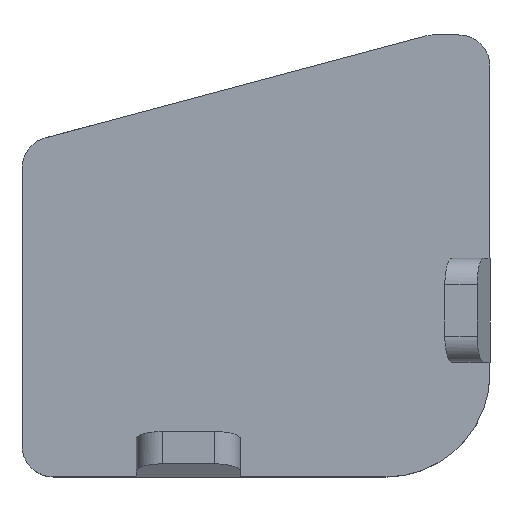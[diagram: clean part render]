
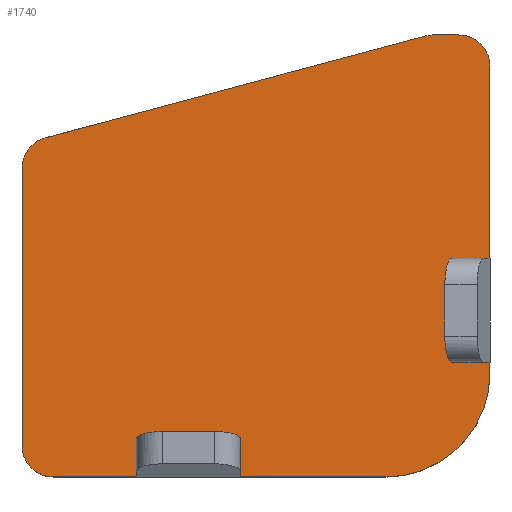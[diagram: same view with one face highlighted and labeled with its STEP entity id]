
A CAD part, top view. The second image highlights one B-rep face of the part: STEP entity #1740.
In plain terms, the highlighted planar face has unit normal (0, 0, 1).
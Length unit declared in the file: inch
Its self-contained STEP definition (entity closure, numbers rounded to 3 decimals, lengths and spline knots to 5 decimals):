
#3 = CARTESIAN_POINT ( 'NONE',  ( 0.15, 1.2, 0.25 ) ) ;
#10 = VECTOR ( 'NONE', #1423, 39.37008 ) ;
#25 = LINE ( 'NONE', #450, #368 ) ;
#31 = ORIENTED_EDGE ( 'NONE', *, *, #583, .T. ) ;
#53 = EDGE_CURVE ( 'NONE', #1333, #577, #1671, .T. ) ;
#60 = FACE_OUTER_BOUND ( 'NONE', #218, .T. ) ;
#100 = CARTESIAN_POINT ( 'NONE',  ( 0.55, 0.15, 0.25 ) ) ;
#103 = CARTESIAN_POINT ( 'NONE',  ( 0., 0., 0.25 ) ) ;
#105 = CARTESIAN_POINT ( 'NONE',  ( 0.5, 0.5, 0.25 ) ) ;
#109 = LINE ( 'NONE', #1492, #1618 ) ;
#123 = EDGE_CURVE ( 'NONE', #653, #1025, #25, .T. ) ;
#137 = CARTESIAN_POINT ( 'NONE',  ( 1.05, 0.15, 0.25 ) ) ;
#141 = DIRECTION ( 'NONE',  ( -1., 0., 0. ) ) ;
#151 = CARTESIAN_POINT ( 'NONE',  ( 1.975, 0.27098, 0.25 ) ) ;
#155 = VERTEX_POINT ( 'NONE', #1110 ) ;
#173 = ORIENTED_EDGE ( 'NONE', *, *, #652, .T. ) ;
#185 = EDGE_CURVE ( 'NONE', #1169, #1060, #675, .T. ) ;
#192 = DIRECTION ( 'NONE',  ( 0., 1., 0. ) ) ;
#218 = EDGE_LOOP ( 'NONE', ( #429, #1091, #1090, #740, #555, #446, #487, #1644, #1733, #1021, #488, #539, #1437, #1481, #31, #1017, #243, #173 ) ) ;
#227 = PLANE ( 'NONE',  #1069 ) ;
#241 = DIRECTION ( 'NONE',  ( 1., 0., 0. ) ) ;
#243 = ORIENTED_EDGE ( 'NONE', *, *, #53, .T. ) ;
#286 = VERTEX_POINT ( 'NONE', #879 ) ;
#293 = CARTESIAN_POINT ( 'NONE',  ( 1.05, 0., 0.25 ) ) ;
#302 = EDGE_CURVE ( 'NONE', #1172, #1041, #877, .T. ) ;
#305 = DIRECTION ( 'NONE',  ( 0., 0., 1. ) ) ;
#326 = CARTESIAN_POINT ( 'NONE',  ( 0.15, 2.25, 0.25 ) ) ;
#343 = CARTESIAN_POINT ( 'NONE',  ( 2.125, 0., 0.25 ) ) ;
#365 = LINE ( 'NONE', #801, #736 ) ;
#368 = VECTOR ( 'NONE', #1252, 39.37008 ) ;
#372 = DIRECTION ( 'NONE',  ( 1., 0., 0. ) ) ;
#399 = DIRECTION ( 'NONE',  ( 0., 0., 1. ) ) ;
#405 = LINE ( 'NONE', #3, #10 ) ;
#429 = ORIENTED_EDGE ( 'NONE', *, *, #786, .T. ) ;
#446 = ORIENTED_EDGE ( 'NONE', *, *, #1173, .F. ) ;
#449 = EDGE_CURVE ( 'NONE', #1570, #925, #365, .T. ) ;
#450 = CARTESIAN_POINT ( 'NONE',  ( 0.55, 0.15, 0.25 ) ) ;
#466 = CARTESIAN_POINT ( 'NONE',  ( 0.15, 1.2, 0.25 ) ) ;
#487 = ORIENTED_EDGE ( 'NONE', *, *, #1839, .F. ) ;
#488 = ORIENTED_EDGE ( 'NONE', *, *, #1305, .T. ) ;
#505 = CARTESIAN_POINT ( 'NONE',  ( 1.48492, 2.25, 0.25 ) ) ;
#523 = CARTESIAN_POINT ( 'NONE',  ( 2.125, 0.27098, 0.25 ) ) ;
#539 = ORIENTED_EDGE ( 'NONE', *, *, #123, .F. ) ;
#555 = ORIENTED_EDGE ( 'NONE', *, *, #302, .T. ) ;
#577 = VERTEX_POINT ( 'NONE', #523 ) ;
#583 = EDGE_CURVE ( 'NONE', #1060, #1465, #109, .T. ) ;
#588 = CARTESIAN_POINT ( 'NONE',  ( 2.125, 0.29073, 0.25 ) ) ;
#589 = LINE ( 'NONE', #588, #1748 ) ;
#591 = CIRCLE ( 'NONE', #640, 0.15 ) ;
#635 = CARTESIAN_POINT ( 'NONE',  ( 1.48492, 2.1, 0.25 ) ) ;
#640 = AXIS2_PLACEMENT_3D ( 'NONE', #1601, #1449, #1717 ) ;
#652 = EDGE_CURVE ( 'NONE', #577, #1650, #812, .T. ) ;
#653 = VERTEX_POINT ( 'NONE', #100 ) ;
#662 = EDGE_CURVE ( 'NONE', #286, #1148, #1812, .T. ) ;
#668 = CARTESIAN_POINT ( 'NONE',  ( 2.125, 0.15, 0.25 ) ) ;
#675 = LINE ( 'NONE', #1128, #1003 ) ;
#697 = DIRECTION ( 'NONE',  ( 0., 0., 1. ) ) ;
#732 = CARTESIAN_POINT ( 'NONE',  ( 0., 2.25, 0.25 ) ) ;
#736 = VECTOR ( 'NONE', #1609, 39.37008 ) ;
#740 = ORIENTED_EDGE ( 'NONE', *, *, #1381, .T. ) ;
#763 = CIRCLE ( 'NONE', #1663, 0.15 ) ;
#784 = VECTOR ( 'NONE', #950, 39.37008 ) ;
#786 = EDGE_CURVE ( 'NONE', #1650, #1556, #589, .T. ) ;
#794 = DIRECTION ( 'NONE',  ( 1., 0., 0. ) ) ;
#801 = CARTESIAN_POINT ( 'NONE',  ( 1.60001, 2.25, 0.25 ) ) ;
#804 = CARTESIAN_POINT ( 'NONE',  ( 1.05, 0.15, 0.25 ) ) ;
#812 = CIRCLE ( 'NONE', #1296, 0.15 ) ;
#827 = DIRECTION ( 'NONE',  ( 1., 0., 0. ) ) ;
#828 = EDGE_CURVE ( 'NONE', #1169, #653, #888, .T. ) ;
#862 = CARTESIAN_POINT ( 'NONE',  ( 0.15, 1.2, 0.25 ) ) ;
#876 = DIRECTION ( 'NONE',  ( -0.259, 0.966, 0. ) ) ;
#877 = LINE ( 'NONE', #732, #1229 ) ;
#879 = CARTESIAN_POINT ( 'NONE',  ( 0., 0.5, 0.25 ) ) ;
#888 = LINE ( 'NONE', #137, #1281 ) ;
#891 = EDGE_CURVE ( 'NONE', #1226, #155, #405, .T. ) ;
#899 = AXIS2_PLACEMENT_3D ( 'NONE', #635, #1604, #794 ) ;
#925 = VERTEX_POINT ( 'NONE', #326 ) ;
#950 = DIRECTION ( 'NONE',  ( 0., -1., 0. ) ) ;
#1000 = DIRECTION ( 'NONE',  ( 0., -1., 0. ) ) ;
#1003 = VECTOR ( 'NONE', #1817, 39.37008 ) ;
#1017 = ORIENTED_EDGE ( 'NONE', *, *, #1236, .T. ) ;
#1021 = ORIENTED_EDGE ( 'NONE', *, *, #662, .T. ) ;
#1025 = VERTEX_POINT ( 'NONE', #1807 ) ;
#1041 = VERTEX_POINT ( 'NONE', #1256 ) ;
#1060 = VERTEX_POINT ( 'NONE', #293 ) ;
#1069 = AXIS2_PLACEMENT_3D ( 'NONE', #103, #399, #1373 ) ;
#1090 = ORIENTED_EDGE ( 'NONE', *, *, #449, .T. ) ;
#1091 = ORIENTED_EDGE ( 'NONE', *, *, #1508, .T. ) ;
#1109 = DIRECTION ( 'NONE',  ( 0., 0., 1. ) ) ;
#1110 = CARTESIAN_POINT ( 'NONE',  ( 0., 1.2, 0.25 ) ) ;
#1128 = CARTESIAN_POINT ( 'NONE',  ( 1.05, 0.15, 0.25 ) ) ;
#1134 = LINE ( 'NONE', #1482, #784 ) ;
#1148 = VERTEX_POINT ( 'NONE', #1360 ) ;
#1168 = CARTESIAN_POINT ( 'NONE',  ( 0.15, 2.1, 0.25 ) ) ;
#1169 = VERTEX_POINT ( 'NONE', #804 ) ;
#1172 = VERTEX_POINT ( 'NONE', #1837 ) ;
#1173 = EDGE_CURVE ( 'NONE', #1502, #1041, #1790, .T. ) ;
#1190 = CARTESIAN_POINT ( 'NONE',  ( 0.15, 1.7, 0.25 ) ) ;
#1201 = DIRECTION ( 'NONE',  ( -1., 0., 0. ) ) ;
#1226 = VERTEX_POINT ( 'NONE', #466 ) ;
#1229 = VECTOR ( 'NONE', #1000, 39.37008 ) ;
#1236 = EDGE_CURVE ( 'NONE', #1465, #1333, #591, .T. ) ;
#1246 = VECTOR ( 'NONE', #372, 39.37008 ) ;
#1252 = DIRECTION ( 'NONE',  ( 0., -1., 0. ) ) ;
#1256 = CARTESIAN_POINT ( 'NONE',  ( 0., 1.7, 0.25 ) ) ;
#1281 = VECTOR ( 'NONE', #141, 39.37008 ) ;
#1296 = AXIS2_PLACEMENT_3D ( 'NONE', #151, #697, #1657 ) ;
#1299 = DIRECTION ( 'NONE',  ( 1., 0., 0. ) ) ;
#1305 = EDGE_CURVE ( 'NONE', #1148, #1025, #1567, .T. ) ;
#1333 = VERTEX_POINT ( 'NONE', #668 ) ;
#1360 = CARTESIAN_POINT ( 'NONE',  ( 0.5, 0., 0.25 ) ) ;
#1373 = DIRECTION ( 'NONE',  ( 1., 0., 0. ) ) ;
#1376 = CARTESIAN_POINT ( 'NONE',  ( 0., 0., 0.25 ) ) ;
#1381 = EDGE_CURVE ( 'NONE', #925, #1172, #763, .T. ) ;
#1392 = VECTOR ( 'NONE', #1819, 39.37008 ) ;
#1423 = DIRECTION ( 'NONE',  ( -1., 0., 0. ) ) ;
#1430 = LINE ( 'NONE', #862, #1392 ) ;
#1437 = ORIENTED_EDGE ( 'NONE', *, *, #828, .F. ) ;
#1449 = DIRECTION ( 'NONE',  ( 0., 0., 1. ) ) ;
#1465 = VERTEX_POINT ( 'NONE', #1587 ) ;
#1481 = ORIENTED_EDGE ( 'NONE', *, *, #185, .T. ) ;
#1482 = CARTESIAN_POINT ( 'NONE',  ( 0., 2.25, 0.25 ) ) ;
#1492 = CARTESIAN_POINT ( 'NONE',  ( 0., 0., 0.25 ) ) ;
#1502 = VERTEX_POINT ( 'NONE', #1190 ) ;
#1508 = EDGE_CURVE ( 'NONE', #1556, #1570, #1684, .T. ) ;
#1556 = VERTEX_POINT ( 'NONE', #1612 ) ;
#1567 = LINE ( 'NONE', #1376, #1246 ) ;
#1570 = VERTEX_POINT ( 'NONE', #505 ) ;
#1575 = VECTOR ( 'NONE', #192, 39.37008 ) ;
#1587 = CARTESIAN_POINT ( 'NONE',  ( 1.975, 0., 0.25 ) ) ;
#1601 = CARTESIAN_POINT ( 'NONE',  ( 1.975, 0.15, 0.25 ) ) ;
#1604 = DIRECTION ( 'NONE',  ( 0., 0., 1. ) ) ;
#1609 = DIRECTION ( 'NONE',  ( -1., 0., 0. ) ) ;
#1612 = CARTESIAN_POINT ( 'NONE',  ( 1.6298, 2.13882, 0.25 ) ) ;
#1618 = VECTOR ( 'NONE', #827, 39.37008 ) ;
#1625 = EDGE_CURVE ( 'NONE', #155, #286, #1134, .T. ) ;
#1634 = CARTESIAN_POINT ( 'NONE',  ( 2.11989, 0.3098, 0.25 ) ) ;
#1644 = ORIENTED_EDGE ( 'NONE', *, *, #891, .T. ) ;
#1650 = VERTEX_POINT ( 'NONE', #1634 ) ;
#1657 = DIRECTION ( 'NONE',  ( 1., 0., 0. ) ) ;
#1663 = AXIS2_PLACEMENT_3D ( 'NONE', #1168, #305, #1299 ) ;
#1671 = LINE ( 'NONE', #343, #1575 ) ;
#1677 = AXIS2_PLACEMENT_3D ( 'NONE', #105, #1109, #241 ) ;
#1684 = CIRCLE ( 'NONE', #899, 0.15 ) ;
#1705 = VECTOR ( 'NONE', #1201, 39.37008 ) ;
#1717 = DIRECTION ( 'NONE',  ( 1., 0., 0. ) ) ;
#1733 = ORIENTED_EDGE ( 'NONE', *, *, #1625, .T. ) ;
#1740 = ADVANCED_FACE ( 'NONE', ( #60 ), #227, .T. ) ;
#1748 = VECTOR ( 'NONE', #876, 39.37008 ) ;
#1790 = LINE ( 'NONE', #1829, #1705 ) ;
#1807 = CARTESIAN_POINT ( 'NONE',  ( 0.55, 0., 0.25 ) ) ;
#1812 = CIRCLE ( 'NONE', #1677, 0.5 ) ;
#1817 = DIRECTION ( 'NONE',  ( 0., -1., 0. ) ) ;
#1819 = DIRECTION ( 'NONE',  ( 0., 1., 0. ) ) ;
#1829 = CARTESIAN_POINT ( 'NONE',  ( 0.15, 1.7, 0.25 ) ) ;
#1837 = CARTESIAN_POINT ( 'NONE',  ( 0., 2.1, 0.25 ) ) ;
#1839 = EDGE_CURVE ( 'NONE', #1226, #1502, #1430, .T. ) ;
